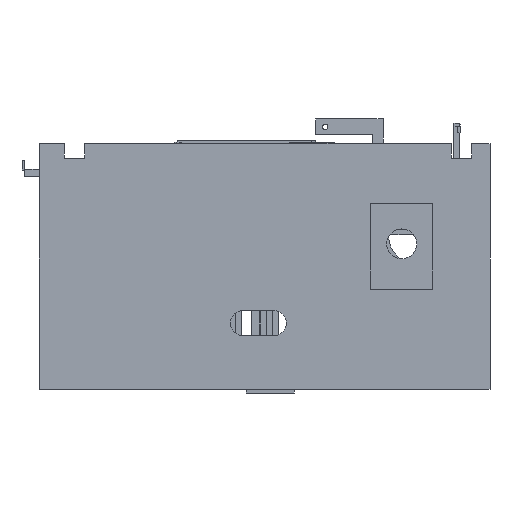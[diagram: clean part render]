
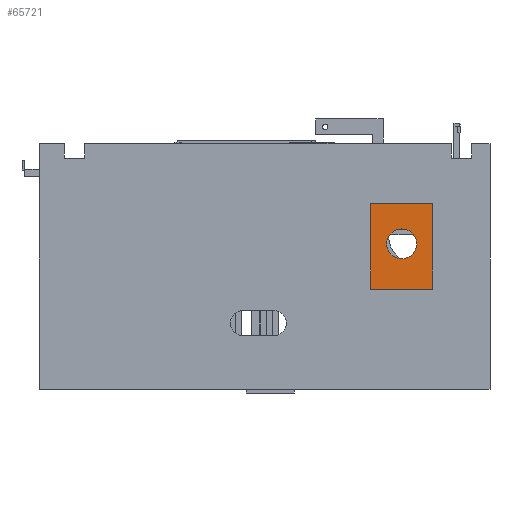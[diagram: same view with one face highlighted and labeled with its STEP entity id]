
A CAD part, front view. The second image highlights one B-rep face of the part: STEP entity #65721.
In plain terms, the highlighted planar face has unit normal (0, -1, 0).
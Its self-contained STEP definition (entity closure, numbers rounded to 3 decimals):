
#15853 = PLANE('',#15854);
#15854 = AXIS2_PLACEMENT_3D('',#15855,#15856,#15857);
#15855 = CARTESIAN_POINT('',(172.,-99.664,118.));
#15856 = DIRECTION('',(0.,0.,1.));
#15857 = DIRECTION('',(1.,0.,0.));
#15907 = PLANE('',#15908);
#15908 = AXIS2_PLACEMENT_3D('',#15909,#15910,#15911);
#15909 = CARTESIAN_POINT('',(172.,-99.664,82.));
#15910 = DIRECTION('',(-0.,-0.,-1.));
#15911 = DIRECTION('',(-1.,0.,0.));
#43334 = VERTEX_POINT('',#43335);
#43335 = CARTESIAN_POINT('',(159.,-100.5,118.));
#43349 = PLANE('',#43350);
#43350 = AXIS2_PLACEMENT_3D('',#43351,#43352,#43353);
#43351 = CARTESIAN_POINT('',(159.,-103.,82.));
#43352 = DIRECTION('',(1.,0.,0.));
#43353 = DIRECTION('',(0.,0.,1.));
#43361 = EDGE_CURVE('',#43334,#43362,#43364,.T.);
#43362 = VERTEX_POINT('',#43363);
#43363 = CARTESIAN_POINT('',(185.,-100.5,118.));
#43364 = SURFACE_CURVE('',#43365,(#43369,#43376),.PCURVE_S1.);
#43365 = LINE('',#43366,#43367);
#43366 = CARTESIAN_POINT('',(155.,-100.5,118.));
#43367 = VECTOR('',#43368,1.);
#43368 = DIRECTION('',(1.,0.,0.));
#43369 = PCURVE('',#15853,#43370);
#43370 = DEFINITIONAL_REPRESENTATION('',(#43371),#43375);
#43371 = LINE('',#43372,#43373);
#43372 = CARTESIAN_POINT('',(-17.,-0.836));
#43373 = VECTOR('',#43374,1.);
#43374 = DIRECTION('',(1.,0.));
#43375 = ( GEOMETRIC_REPRESENTATION_CONTEXT(2) 
PARAMETRIC_REPRESENTATION_CONTEXT() REPRESENTATION_CONTEXT('2D SPACE',''
  ) );
#43376 = PCURVE('',#43377,#43382);
#43377 = PLANE('',#43378);
#43378 = AXIS2_PLACEMENT_3D('',#43379,#43380,#43381);
#43379 = CARTESIAN_POINT('',(155.,-100.5,82.));
#43380 = DIRECTION('',(0.,1.,0.));
#43381 = DIRECTION('',(0.,0.,1.));
#43382 = DEFINITIONAL_REPRESENTATION('',(#43383),#43387);
#43383 = LINE('',#43384,#43385);
#43384 = CARTESIAN_POINT('',(36.,0.));
#43385 = VECTOR('',#43386,1.);
#43386 = DIRECTION('',(0.,1.));
#43387 = ( GEOMETRIC_REPRESENTATION_CONTEXT(2) 
PARAMETRIC_REPRESENTATION_CONTEXT() REPRESENTATION_CONTEXT('2D SPACE',''
  ) );
#43403 = PLANE('',#43404);
#43404 = AXIS2_PLACEMENT_3D('',#43405,#43406,#43407);
#43405 = CARTESIAN_POINT('',(185.,-103.,82.));
#43406 = DIRECTION('',(1.,0.,0.));
#43407 = DIRECTION('',(0.,0.,1.));
#43656 = VERTEX_POINT('',#43657);
#43657 = CARTESIAN_POINT('',(185.,-100.5,82.));
#43678 = EDGE_CURVE('',#43679,#43656,#43681,.T.);
#43679 = VERTEX_POINT('',#43680);
#43680 = CARTESIAN_POINT('',(159.,-100.5,82.));
#43681 = SURFACE_CURVE('',#43682,(#43686,#43693),.PCURVE_S1.);
#43682 = LINE('',#43683,#43684);
#43683 = CARTESIAN_POINT('',(155.,-100.5,82.));
#43684 = VECTOR('',#43685,1.);
#43685 = DIRECTION('',(1.,0.,0.));
#43686 = PCURVE('',#15907,#43687);
#43687 = DEFINITIONAL_REPRESENTATION('',(#43688),#43692);
#43688 = LINE('',#43689,#43690);
#43689 = CARTESIAN_POINT('',(17.,-0.836));
#43690 = VECTOR('',#43691,1.);
#43691 = DIRECTION('',(-1.,0.));
#43692 = ( GEOMETRIC_REPRESENTATION_CONTEXT(2) 
PARAMETRIC_REPRESENTATION_CONTEXT() REPRESENTATION_CONTEXT('2D SPACE',''
  ) );
#43693 = PCURVE('',#43377,#43694);
#43694 = DEFINITIONAL_REPRESENTATION('',(#43695),#43699);
#43695 = LINE('',#43696,#43697);
#43696 = CARTESIAN_POINT('',(0.,0.));
#43697 = VECTOR('',#43698,1.);
#43698 = DIRECTION('',(0.,1.));
#43699 = ( GEOMETRIC_REPRESENTATION_CONTEXT(2) 
PARAMETRIC_REPRESENTATION_CONTEXT() REPRESENTATION_CONTEXT('2D SPACE',''
  ) );
#65702 = EDGE_CURVE('',#43334,#43679,#65703,.T.);
#65703 = SURFACE_CURVE('',#65704,(#65708,#65714),.PCURVE_S1.);
#65704 = LINE('',#65705,#65706);
#65705 = CARTESIAN_POINT('',(159.,-100.5,82.));
#65706 = VECTOR('',#65707,1.);
#65707 = DIRECTION('',(0.,0.,-1.));
#65708 = PCURVE('',#43349,#65709);
#65709 = DEFINITIONAL_REPRESENTATION('',(#65710),#65713);
#65710 = B_SPLINE_CURVE_WITH_KNOTS('',1,(#65711,#65712),.UNSPECIFIED.,
  .F.,.F.,(2,2),(-36.,-0.),.PIECEWISE_BEZIER_KNOTS.);
#65711 = CARTESIAN_POINT('',(36.,-2.5));
#65712 = CARTESIAN_POINT('',(0.,-2.5));
#65713 = ( GEOMETRIC_REPRESENTATION_CONTEXT(2) 
PARAMETRIC_REPRESENTATION_CONTEXT() REPRESENTATION_CONTEXT('2D SPACE',''
  ) );
#65714 = PCURVE('',#43377,#65715);
#65715 = DEFINITIONAL_REPRESENTATION('',(#65716),#65719);
#65716 = B_SPLINE_CURVE_WITH_KNOTS('',1,(#65717,#65718),.UNSPECIFIED.,
  .F.,.F.,(2,2),(-36.,-0.),.PIECEWISE_BEZIER_KNOTS.);
#65717 = CARTESIAN_POINT('',(36.,4.));
#65718 = CARTESIAN_POINT('',(0.,4.));
#65719 = ( GEOMETRIC_REPRESENTATION_CONTEXT(2) 
PARAMETRIC_REPRESENTATION_CONTEXT() REPRESENTATION_CONTEXT('2D SPACE',''
  ) );
#65721 = ADVANCED_FACE('',(#65722,#65746),#43377,.F.);
#65722 = FACE_BOUND('',#65723,.F.);
#65723 = EDGE_LOOP('',(#65724,#65725,#65726,#65727));
#65724 = ORIENTED_EDGE('',*,*,#43678,.F.);
#65725 = ORIENTED_EDGE('',*,*,#65702,.F.);
#65726 = ORIENTED_EDGE('',*,*,#43361,.T.);
#65727 = ORIENTED_EDGE('',*,*,#65728,.T.);
#65728 = EDGE_CURVE('',#43362,#43656,#65729,.T.);
#65729 = SURFACE_CURVE('',#65730,(#65734,#65740),.PCURVE_S1.);
#65730 = LINE('',#65731,#65732);
#65731 = CARTESIAN_POINT('',(185.,-100.5,82.));
#65732 = VECTOR('',#65733,1.);
#65733 = DIRECTION('',(0.,0.,-1.));
#65734 = PCURVE('',#43377,#65735);
#65735 = DEFINITIONAL_REPRESENTATION('',(#65736),#65739);
#65736 = B_SPLINE_CURVE_WITH_KNOTS('',1,(#65737,#65738),.UNSPECIFIED.,
  .F.,.F.,(2,2),(-36.,-0.),.PIECEWISE_BEZIER_KNOTS.);
#65737 = CARTESIAN_POINT('',(36.,30.));
#65738 = CARTESIAN_POINT('',(0.,30.));
#65739 = ( GEOMETRIC_REPRESENTATION_CONTEXT(2) 
PARAMETRIC_REPRESENTATION_CONTEXT() REPRESENTATION_CONTEXT('2D SPACE',''
  ) );
#65740 = PCURVE('',#43403,#65741);
#65741 = DEFINITIONAL_REPRESENTATION('',(#65742),#65745);
#65742 = B_SPLINE_CURVE_WITH_KNOTS('',1,(#65743,#65744),.UNSPECIFIED.,
  .F.,.F.,(2,2),(-36.,-0.),.PIECEWISE_BEZIER_KNOTS.);
#65743 = CARTESIAN_POINT('',(36.,-2.5));
#65744 = CARTESIAN_POINT('',(0.,-2.5));
#65745 = ( GEOMETRIC_REPRESENTATION_CONTEXT(2) 
PARAMETRIC_REPRESENTATION_CONTEXT() REPRESENTATION_CONTEXT('2D SPACE',''
  ) );
#65746 = FACE_BOUND('',#65747,.F.);
#65747 = EDGE_LOOP('',(#65748));
#65748 = ORIENTED_EDGE('',*,*,#65749,.F.);
#65749 = EDGE_CURVE('',#65750,#65750,#65752,.T.);
#65750 = VERTEX_POINT('',#65751);
#65751 = CARTESIAN_POINT('',(172.,-100.5,107.25));
#65752 = SURFACE_CURVE('',#65753,(#65758,#65765),.PCURVE_S1.);
#65753 = CIRCLE('',#65754,6.25);
#65754 = AXIS2_PLACEMENT_3D('',#65755,#65756,#65757);
#65755 = CARTESIAN_POINT('',(172.,-100.5,101.));
#65756 = DIRECTION('',(0.,1.,0.));
#65757 = DIRECTION('',(0.,0.,1.));
#65758 = PCURVE('',#43377,#65759);
#65759 = DEFINITIONAL_REPRESENTATION('',(#65760),#65764);
#65760 = CIRCLE('',#65761,6.25);
#65761 = AXIS2_PLACEMENT_2D('',#65762,#65763);
#65762 = CARTESIAN_POINT('',(19.,17.));
#65763 = DIRECTION('',(1.,0.));
#65764 = ( GEOMETRIC_REPRESENTATION_CONTEXT(2) 
PARAMETRIC_REPRESENTATION_CONTEXT() REPRESENTATION_CONTEXT('2D SPACE',''
  ) );
#65765 = PCURVE('',#65766,#65771);
#65766 = CYLINDRICAL_SURFACE('',#65767,6.25);
#65767 = AXIS2_PLACEMENT_3D('',#65768,#65769,#65770);
#65768 = CARTESIAN_POINT('',(172.,-101.,101.));
#65769 = DIRECTION('',(0.,1.,0.));
#65770 = DIRECTION('',(0.,0.,1.));
#65771 = DEFINITIONAL_REPRESENTATION('',(#65772),#65776);
#65772 = LINE('',#65773,#65774);
#65773 = CARTESIAN_POINT('',(0.,0.5));
#65774 = VECTOR('',#65775,1.);
#65775 = DIRECTION('',(1.,0.));
#65776 = ( GEOMETRIC_REPRESENTATION_CONTEXT(2) 
PARAMETRIC_REPRESENTATION_CONTEXT() REPRESENTATION_CONTEXT('2D SPACE',''
  ) );
